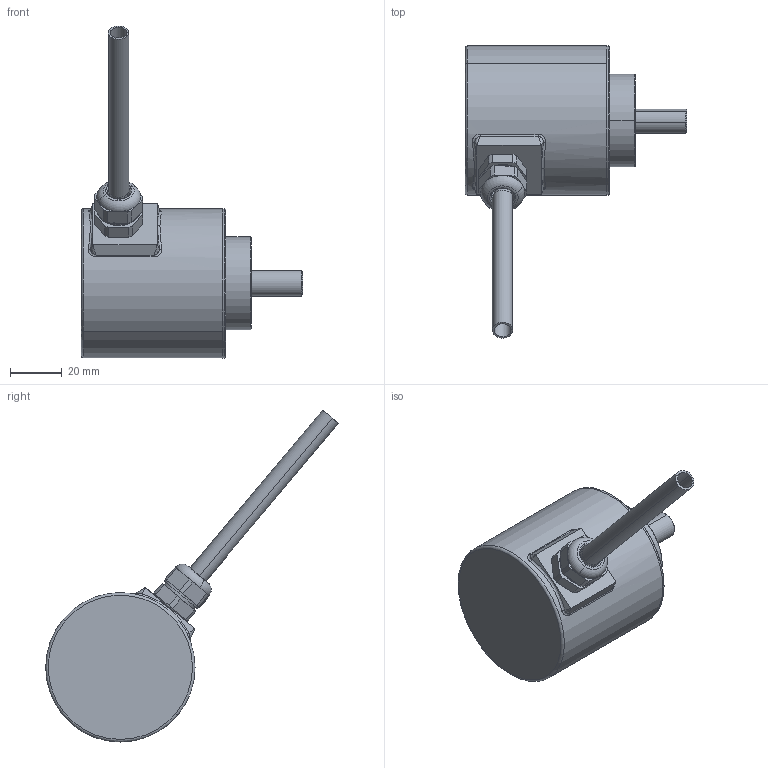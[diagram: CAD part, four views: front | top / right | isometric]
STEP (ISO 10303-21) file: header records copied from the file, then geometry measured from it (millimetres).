
FILE_DESCRIPTION (( 'STEP AP214' ), '1' );
FILE_NAME ('8.5803.12X2.XXXX.STEP', '2010-12-17T13:38:57', ( 'admin' ), ( 'Fritz Kübler GmbH' ), 'SwSTEP 2.0', 'SolidWorks 2009', '' );
FILE_SCHEMA (( 'AUTOMOTIVE_DESIGN' ));
Length unit declared in the file: millimetre
Products named in the file (1): 8.5803.12X2.XXXX
Bounding box: 85.95 x 113.64 x 128.9 mm (x, y, z)
Surface area: 26715.7 mm2 (no closed solid volume)
Topology: 0 solids, 9 shells, 126 faces, 308 edges, 198 vertices
Faces by surface type: cylinder 44, plane 40, torus 16, cone 15, bspline 11
Entity records: 6160 total; most frequent: CARTESIAN_POINT 1747, DIRECTION 680, ORIENTED_EDGE 572, EDGE_CURVE 308, AXIS2_PLACEMENT_3D 284, VERTEX_POINT 198, CIRCLE 168, EDGE_LOOP 144
